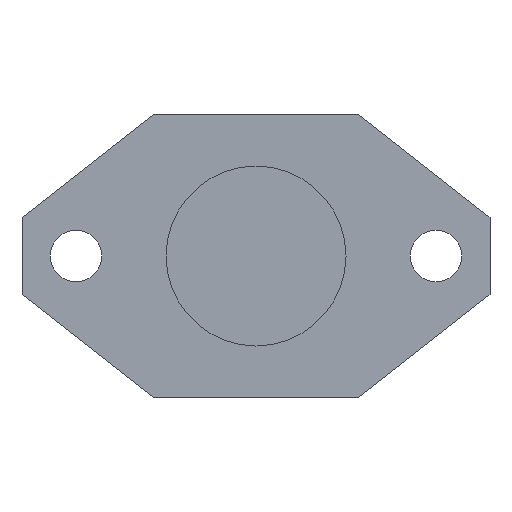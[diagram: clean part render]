
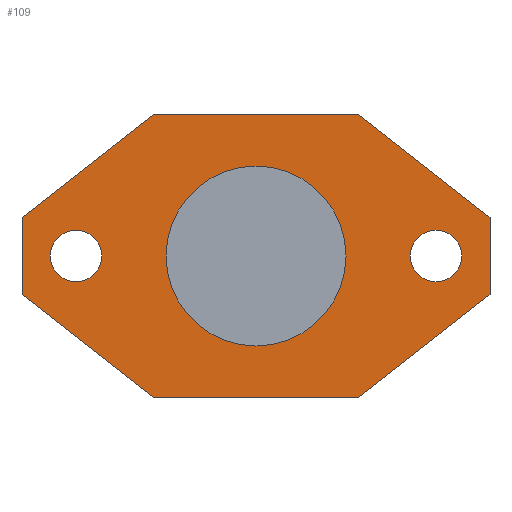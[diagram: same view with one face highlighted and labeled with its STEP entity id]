
A CAD part, front view. The second image highlights one B-rep face of the part: STEP entity #109.
In plain terms, the highlighted planar face has unit normal (0, -1, 0).
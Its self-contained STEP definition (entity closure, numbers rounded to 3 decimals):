
#109=ADVANCED_FACE('',(#245,#246,#247,#248),#249,.T.);
#245=FACE_OUTER_BOUND('',#2239,.T.);
#246=FACE_BOUND('',#2240,.T.);
#247=FACE_BOUND('',#2241,.T.);
#248=FACE_BOUND('',#2242,.T.);
#249=PLANE('',#2243);
#2239=EDGE_LOOP('',(#4337,#4338,#4339,#4340,#4341,#4342,#4343,#4344));
#2240=EDGE_LOOP('',(#4345,#4346));
#2241=EDGE_LOOP('',(#4347,#4348));
#2242=EDGE_LOOP('',(#4349,#4350));
#2243=AXIS2_PLACEMENT_3D('',#4351,#4352,#4353);
#4337=ORIENTED_EDGE('',*,*,#4661,.F.);
#4338=ORIENTED_EDGE('',*,*,#4662,.F.);
#4339=ORIENTED_EDGE('',*,*,#4663,.F.);
#4340=ORIENTED_EDGE('',*,*,#4664,.F.);
#4341=ORIENTED_EDGE('',*,*,#4665,.F.);
#4342=ORIENTED_EDGE('',*,*,#4666,.F.);
#4343=ORIENTED_EDGE('',*,*,#4667,.F.);
#4344=ORIENTED_EDGE('',*,*,#4668,.F.);
#4345=ORIENTED_EDGE('',*,*,#4610,.T.);
#4346=ORIENTED_EDGE('',*,*,#4669,.T.);
#4347=ORIENTED_EDGE('',*,*,#4615,.T.);
#4348=ORIENTED_EDGE('',*,*,#4670,.T.);
#4349=ORIENTED_EDGE('',*,*,#4602,.F.);
#4350=ORIENTED_EDGE('',*,*,#4671,.F.);
#4351=CARTESIAN_POINT('',(0.,-42.5,0.));
#4352=DIRECTION('',(0.0,-1.0,0.));
#4353=DIRECTION('',(1.0,0.0,0.0));
#4602=EDGE_CURVE('',#4787,#4783,#4789,.T.);
#4610=EDGE_CURVE('',#4803,#4800,#4804,.T.);
#4615=EDGE_CURVE('',#4812,#4809,#4813,.T.);
#4661=EDGE_CURVE('',#4883,#4884,#4885,.T.);
#4662=EDGE_CURVE('',#4886,#4883,#4887,.T.);
#4663=EDGE_CURVE('',#4888,#4886,#4889,.T.);
#4664=EDGE_CURVE('',#4890,#4888,#4891,.T.);
#4665=EDGE_CURVE('',#4892,#4890,#4893,.T.);
#4666=EDGE_CURVE('',#4894,#4892,#4895,.T.);
#4667=EDGE_CURVE('',#4896,#4894,#4897,.T.);
#4668=EDGE_CURVE('',#4884,#4896,#4898,.T.);
#4669=EDGE_CURVE('',#4800,#4803,#4899,.T.);
#4670=EDGE_CURVE('',#4809,#4812,#4900,.T.);
#4671=EDGE_CURVE('',#4783,#4787,#4901,.T.);
#4783=VERTEX_POINT('',#5401);
#4787=VERTEX_POINT('',#5406);
#4789=CIRCLE('',#5409,17.5);
#4800=VERTEX_POINT('',#5422);
#4803=VERTEX_POINT('',#5426);
#4804=CIRCLE('',#5427,5.0);
#4809=VERTEX_POINT('',#5433);
#4812=VERTEX_POINT('',#5437);
#4813=CIRCLE('',#5438,5.0);
#4883=VERTEX_POINT('',#5604);
#4884=VERTEX_POINT('',#5605);
#4885=LINE('',#5606,#5607);
#4886=VERTEX_POINT('',#5608);
#4887=LINE('',#5609,#5610);
#4888=VERTEX_POINT('',#5611);
#4889=LINE('',#5612,#5613);
#4890=VERTEX_POINT('',#5614);
#4891=LINE('',#5615,#5616);
#4892=VERTEX_POINT('',#5617);
#4893=LINE('',#5618,#5619);
#4894=VERTEX_POINT('',#5620);
#4895=LINE('',#5621,#5622);
#4896=VERTEX_POINT('',#5623);
#4897=LINE('',#5624,#5625);
#4898=LINE('',#5626,#5627);
#4899=CIRCLE('',#5628,5.0);
#4900=CIRCLE('',#5629,5.0);
#4901=CIRCLE('',#5630,17.5);
#5401=CARTESIAN_POINT('',(17.5,-42.5,0.));
#5406=CARTESIAN_POINT('',(-17.5,-42.5,0.));
#5409=AXIS2_PLACEMENT_3D('',#5785,#5786,#5787);
#5422=CARTESIAN_POINT('',(40.0,-42.5,0.));
#5426=CARTESIAN_POINT('',(30.0,-42.5,0.));
#5427=AXIS2_PLACEMENT_3D('',#5797,#5798,#5799);
#5433=CARTESIAN_POINT('',(-30.0,-42.5,0.));
#5437=CARTESIAN_POINT('',(-40.0,-42.5,0.));
#5438=AXIS2_PLACEMENT_3D('',#5805,#5806,#5807);
#5604=CARTESIAN_POINT('',(20.0,-42.5,27.5));
#5605=CARTESIAN_POINT('',(45.5,-42.5,7.5));
#5606=CARTESIAN_POINT('',(20.0,-42.5,27.5));
#5607=VECTOR('',#5879,1.0);
#5608=CARTESIAN_POINT('',(-20.0,-42.5,27.5));
#5609=CARTESIAN_POINT('',(-20.0,-42.5,27.5));
#5610=VECTOR('',#5880,1.0);
#5611=CARTESIAN_POINT('',(-45.5,-42.5,7.5));
#5612=CARTESIAN_POINT('',(-45.5,-42.5,7.5));
#5613=VECTOR('',#5881,1.);
#5614=CARTESIAN_POINT('',(-45.5,-42.5,-7.5));
#5615=CARTESIAN_POINT('',(-45.5,-42.5,-7.5));
#5616=VECTOR('',#5882,1.0);
#5617=CARTESIAN_POINT('',(-20.0,-42.5,-27.5));
#5618=CARTESIAN_POINT('',(-20.0,-42.5,-27.5));
#5619=VECTOR('',#5883,1.0);
#5620=CARTESIAN_POINT('',(20.0,-42.5,-27.5));
#5621=CARTESIAN_POINT('',(20.0,-42.5,-27.5));
#5622=VECTOR('',#5884,1.0);
#5623=CARTESIAN_POINT('',(45.5,-42.5,-7.5));
#5624=CARTESIAN_POINT('',(45.5,-42.5,-7.5));
#5625=VECTOR('',#5885,1.);
#5626=CARTESIAN_POINT('',(45.5,-42.5,7.5));
#5627=VECTOR('',#5886,1.0);
#5628=AXIS2_PLACEMENT_3D('',#5887,#5888,#5889);
#5629=AXIS2_PLACEMENT_3D('',#5890,#5891,#5892);
#5630=AXIS2_PLACEMENT_3D('',#5893,#5894,#5895);
#5785=CARTESIAN_POINT('',(0.0,-42.5,0.0));
#5786=DIRECTION('',(0.0,-1.0,0.));
#5787=DIRECTION('',(1.0,0.0,0.0));
#5797=CARTESIAN_POINT('',(35.0,-42.5,0.0));
#5798=DIRECTION('',(0.0,1.0,0.));
#5799=DIRECTION('',(1.0,0.0,0.0));
#5805=CARTESIAN_POINT('',(-35.0,-42.5,0.0));
#5806=DIRECTION('',(0.0,1.0,0.));
#5807=DIRECTION('',(1.0,0.0,0.0));
#5879=DIRECTION('',(0.787,0.,-0.617));
#5880=DIRECTION('',(1.0,0.0,0.0));
#5881=DIRECTION('',(0.787,0.,0.617));
#5882=DIRECTION('',(0.0,0.,1.0));
#5883=DIRECTION('',(-0.787,0.,0.617));
#5884=DIRECTION('',(-1.0,0.,0.));
#5885=DIRECTION('',(-0.787,0.,-0.617));
#5886=DIRECTION('',(0.0,0.,-1.0));
#5887=CARTESIAN_POINT('',(35.0,-42.5,0.0));
#5888=DIRECTION('',(0.0,1.0,0.));
#5889=DIRECTION('',(1.0,0.0,0.0));
#5890=CARTESIAN_POINT('',(-35.0,-42.5,0.0));
#5891=DIRECTION('',(0.0,1.0,0.));
#5892=DIRECTION('',(1.0,0.0,0.0));
#5893=CARTESIAN_POINT('',(0.0,-42.5,0.0));
#5894=DIRECTION('',(0.0,-1.0,0.));
#5895=DIRECTION('',(1.0,0.0,0.0));
